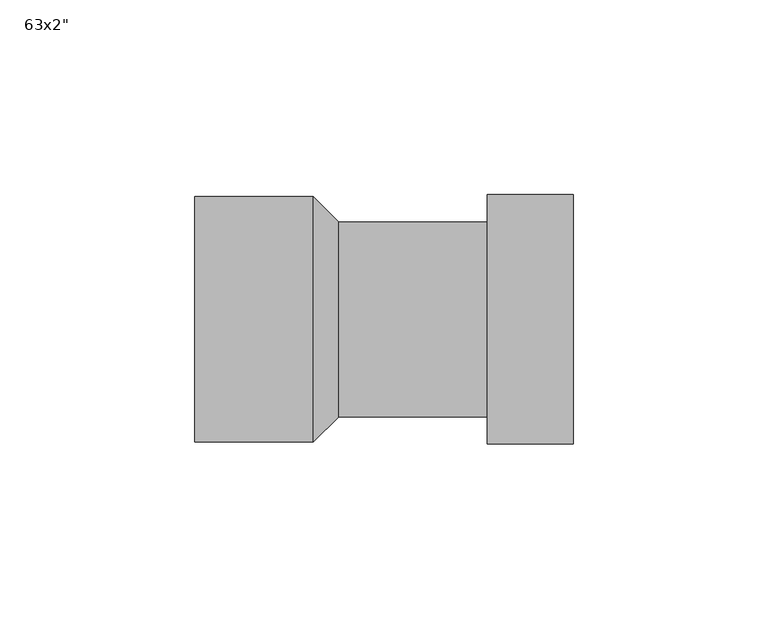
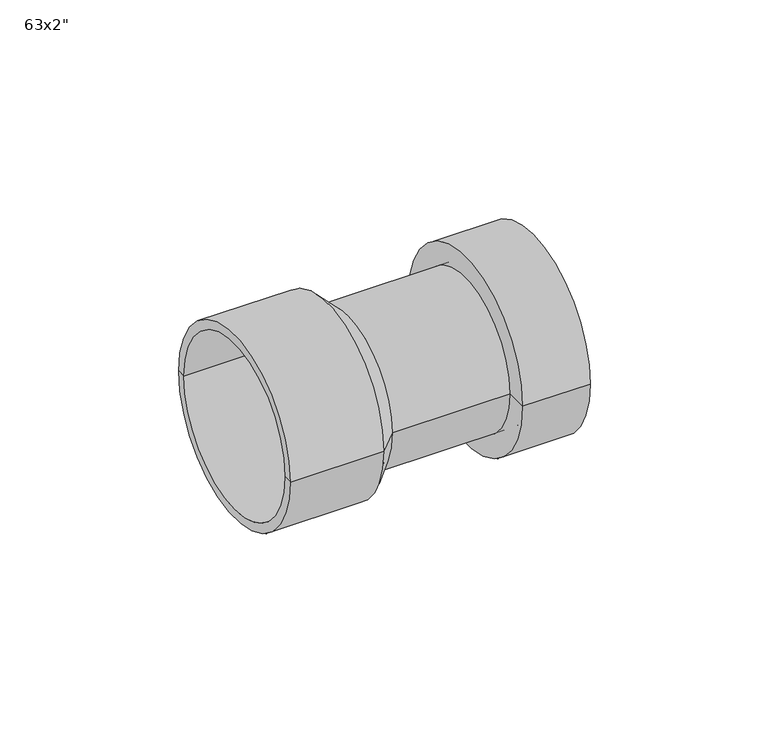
"""IFC4 building model written with IfcOpenShell, lengths in millimetres: pipe fitting geometry."""

from ifc_helpers import new_model, si_unit, frame, origin, place, context, project, spatial, polyline, circle_curve, source, transform, mapped, element, save
from ifc_brep_helpers import plane_surface, cylinder_surface, revolved_surface, advanced_brep


def pipe_fitting_8187f792(model_context):
    return source(origin(), model_context, "Body", "AdvancedBrep", [
        advanced_brep(
        [(45.0, -25.0, 0.0), (45.0, 25.0, 0.0), (45.0, 32.0, 0.0), (45.0, -32.0, 0.0), (52.0, -25.0, 0.0), (52.0, 25.0, 0.0), (52.0, -28.5, 0.0), (52.0, 28.5, 0.0), (67.0, -28.5, 0.0), (67.0, 28.5, 0.0), (67.0, -32.0, 0.0), (67.0, 32.0, 0.0)],
        [
            (0, 1, circle_curve(frame((45.0, 0.0, 0.0), z_axis=(1.0, 0.0, 0.0), x_axis=(0.0, 1.0, 0.0)), 25.0)),
            (1, 2),
            (2, 3, circle_curve(frame((45.0, 0.0, 0.0), z_axis=(-1.0, 0.0, 0.0), x_axis=(0.0, 1.0, 0.0)), 32.0)),
            (3, 0),
            (1, 0, circle_curve(frame((45.0, 0.0, 0.0), z_axis=(1.0, 0.0, 0.0), x_axis=(0.0, 1.0, 0.0)), 25.0)),
            (3, 2, circle_curve(frame((45.0, 0.0, 0.0), z_axis=(-1.0, 0.0, 0.0), x_axis=(0.0, 1.0, 0.0)), 32.0)),
            (4, 5, circle_curve(frame((52.0, 0.0, 0.0), z_axis=(1.0, 0.0, 0.0), x_axis=(0.0, 1.0, 0.0)), 25.0)),
            (5, 1),
            (0, 4),
            (5, 4, circle_curve(frame((52.0, 0.0, 0.0), z_axis=(1.0, 0.0, 0.0), x_axis=(0.0, 1.0, 0.0)), 25.0)),
            (6, 7, circle_curve(frame((52.0, 0.0, 0.0), z_axis=(1.0, 0.0, 0.0), x_axis=(0.0, 1.0, 0.0)), 28.5)),
            (7, 5),
            (4, 6),
            (7, 6, circle_curve(frame((52.0, 0.0, 0.0), z_axis=(1.0, 0.0, 0.0), x_axis=(0.0, 1.0, 0.0)), 28.5)),
            (8, 9, circle_curve(frame((67.0, 0.0, 0.0), z_axis=(1.0, 0.0, 0.0), x_axis=(0.0, 1.0, 0.0)), 28.5)),
            (9, 7),
            (6, 8),
            (9, 8, circle_curve(frame((67.0, 0.0, 0.0), z_axis=(1.0, 0.0, 0.0), x_axis=(0.0, 1.0, 0.0)), 28.5)),
            (10, 11, circle_curve(frame((67.0, 0.0, 0.0), z_axis=(1.0, 0.0, 0.0), x_axis=(0.0, 1.0, 0.0)), 32.0)),
            (11, 9),
            (8, 10),
            (11, 10, circle_curve(frame((67.0, 0.0, 0.0), z_axis=(1.0, 0.0, 0.0), x_axis=(0.0, 1.0, 0.0)), 32.0)),
            (2, 11),
            (10, 3),
        ],
        [
            plane_surface(frame((45.0, 0.0, 0.0), z_axis=(-1.0, 0.0, 0.0), x_axis=(0.0, 1.0, 0.0))),
            revolved_surface(polyline([(45.0, 25.0, 0.0), (52.0, 25.0, 0.0)]), (2024.2018969, 0.0, 0.0), (-1.0, 0.0, 0.0)),
            plane_surface(frame((52.0, 0.0, 0.0), z_axis=(1.0, 0.0, 0.0), x_axis=(0.0, 1.0, 0.0))),
            revolved_surface(polyline([(52.0, 28.5, 0.0), (67.0, 28.5, 0.0)]), (2024.2018969, 0.0, 0.0), (-1.0, 0.0, 0.0)),
            plane_surface(frame((67.0, 0.0, 0.0), z_axis=(1.0, 0.0, 0.0), x_axis=(0.0, 1.0, 0.0))),
            cylinder_surface(frame((2024.2018969, 0.0, 0.0), z_axis=(-1.0, 0.0, 0.0), x_axis=(0.0, 1.0, 0.0)), 32.0),
        ],
        [
            (0, [[1, 2, 3, 4]]),
            (0, [[5, -4, 6, -2]]),
            (1, [[7, 8, -1, 9]]),
            (1, [[10, -9, -5, -8]]),
            (2, [[11, 12, -7, 13]]),
            (2, [[14, -13, -10, -12]]),
            (3, [[15, 16, -11, 17]]),
            (3, [[18, -17, -14, -16]]),
            (4, [[19, 20, -15, 21]]),
            (4, [[22, -21, -18, -20]]),
            (5, [[-3, 23, -19, 24]]),
            (5, [[-6, -24, -22, -23]]),
        ],
    ),
        advanced_brep(
        [(-0.8622978, -28.5, 0.0), (-0.8622978, 28.5, 0.0), (-30.0, 28.5, 0.0), (-30.0, -28.5, 0.0), (5.6377022, -22.0, 0.0), (5.6377022, 22.0, 0.0), (52.0, -22.0, 0.0), (52.0, 22.0, 0.0), (52.0, -25.0, 0.0), (52.0, 25.0, 0.0), (6.8803429, -25.0, 0.0), (6.8803429, 25.0, 0.0), (0.3803429, -31.5, 0.0), (0.3803429, 31.5, 0.0), (-30.0, -31.5, 0.0), (-30.0, 31.5, 0.0)],
        [
            (0, 1, circle_curve(frame((-0.8622978, 0.0, 0.0), z_axis=(1.0, 0.0, 0.0), x_axis=(0.0, 1.0, 0.0)), 28.5)),
            (1, 2),
            (2, 3, circle_curve(frame((-30.0, 0.0, 0.0), z_axis=(-1.0, 0.0, 0.0), x_axis=(0.0, 1.0, 0.0)), 28.5)),
            (3, 0),
            (1, 0, circle_curve(frame((-0.8622978, 0.0, 0.0), z_axis=(1.0, 0.0, 0.0), x_axis=(0.0, 1.0, 0.0)), 28.5)),
            (3, 2, circle_curve(frame((-30.0, 0.0, 0.0), z_axis=(-1.0, 0.0, 0.0), x_axis=(0.0, 1.0, 0.0)), 28.5)),
            (4, 5, circle_curve(frame((5.6377022, 0.0, 0.0), z_axis=(1.0, 0.0, 0.0), x_axis=(0.0, 1.0, 0.0)), 22.0)),
            (5, 1),
            (0, 4),
            (5, 4, circle_curve(frame((5.6377022, 0.0, 0.0), z_axis=(1.0, 0.0, 0.0), x_axis=(0.0, 1.0, 0.0)), 22.0)),
            (6, 7, circle_curve(frame((52.0, 0.0, 0.0), z_axis=(1.0, 0.0, 0.0), x_axis=(0.0, 1.0, 0.0)), 22.0)),
            (7, 5),
            (4, 6),
            (7, 6, circle_curve(frame((52.0, 0.0, 0.0), z_axis=(1.0, 0.0, 0.0), x_axis=(0.0, 1.0, 0.0)), 22.0)),
            (8, 9, circle_curve(frame((52.0, 0.0, 0.0), z_axis=(1.0, 0.0, 0.0), x_axis=(0.0, 1.0, 0.0)), 25.0)),
            (9, 7),
            (6, 8),
            (9, 8, circle_curve(frame((52.0, 0.0, 0.0), z_axis=(1.0, 0.0, 0.0), x_axis=(0.0, 1.0, 0.0)), 25.0)),
            (10, 11, circle_curve(frame((6.8803429, 0.0, 0.0), z_axis=(1.0, 0.0, 0.0), x_axis=(0.0, 1.0, 0.0)), 25.0)),
            (11, 9),
            (8, 10),
            (11, 10, circle_curve(frame((6.8803429, 0.0, 0.0), z_axis=(1.0, 0.0, 0.0), x_axis=(0.0, 1.0, 0.0)), 25.0)),
            (12, 13, circle_curve(frame((0.3803429, 0.0, 0.0), z_axis=(1.0, 0.0, 0.0), x_axis=(0.0, 1.0, 0.0)), 31.5)),
            (13, 11),
            (10, 12),
            (13, 12, circle_curve(frame((0.3803429, 0.0, 0.0), z_axis=(1.0, 0.0, 0.0), x_axis=(0.0, 1.0, 0.0)), 31.5)),
            (14, 15, circle_curve(frame((-30.0, 0.0, 0.0), z_axis=(1.0, 0.0, 0.0), x_axis=(0.0, 1.0, 0.0)), 31.5)),
            (15, 13),
            (12, 14),
            (15, 14, circle_curve(frame((-30.0, 0.0, 0.0), z_axis=(1.0, 0.0, 0.0), x_axis=(0.0, 1.0, 0.0)), 31.5)),
            (2, 15),
            (14, 3),
        ],
        [
            revolved_surface(polyline([(-30.0, 28.5, 0.0), (-0.8622978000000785, 28.5, 0.0)]), (2000.0, 0.0, 0.0), (-1.0, 0.0, 0.0)),
            revolved_surface(polyline([(-0.8622978, 28.5, 0.0), (5.6377022, 22.0, 0.0)]), (2000.0, 0.0, 0.0), (-1.0, 0.0, 0.0)),
            revolved_surface(polyline([(5.6377021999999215, 22.0, 0.0), (52.0, 22.0, 0.0)]), (2000.0, 0.0, 0.0), (-1.0, 0.0, 0.0)),
            plane_surface(frame((52.0, 0.0, 0.0), z_axis=(1.0, 0.0, 0.0), x_axis=(0.0, 1.0, 0.0))),
            cylinder_surface(frame((2000.0, 0.0, 0.0), z_axis=(-1.0, 0.0, 0.0), x_axis=(0.0, 1.0, 0.0)), 25.0),
            revolved_surface(polyline([(6.8803429, 25.0, 0.0), (0.3803429, 31.5, 0.0)]), (2000.0, 0.0, 0.0), (-1.0, 0.0, 0.0)),
            cylinder_surface(frame((2000.0, 0.0, 0.0), z_axis=(-1.0, 0.0, 0.0), x_axis=(0.0, 1.0, 0.0)), 31.5),
            plane_surface(frame((-30.0, 0.0, 0.0), z_axis=(-1.0, 0.0, 0.0), x_axis=(0.0, 1.0, 0.0))),
        ],
        [
            (0, [[1, 2, 3, 4]]),
            (0, [[5, -4, 6, -2]]),
            (1, [[7, 8, -1, 9]]),
            (1, [[10, -9, -5, -8]]),
            (2, [[11, 12, -7, 13]]),
            (2, [[14, -13, -10, -12]]),
            (3, [[15, 16, -11, 17]]),
            (3, [[18, -17, -14, -16]]),
            (4, [[19, 20, -15, 21]]),
            (4, [[22, -21, -18, -20]]),
            (5, [[23, 24, -19, 25]]),
            (5, [[26, -25, -22, -24]]),
            (6, [[27, 28, -23, 29]]),
            (6, [[30, -29, -26, -28]]),
            (7, [[-3, 31, -27, 32]]),
            (7, [[-6, -32, -30, -31]]),
        ],
    ),
    ])


if __name__ == "__main__":
    model = new_model("IFC4")
    model_context = context("Model", 3, world=origin())
    ifc_project = project(units=[si_unit("LENGTHUNIT", "METRE", prefix="MILLI")], contexts=[model_context])
    site = spatial("IfcSite", under=ifc_project)
    building = spatial("IfcBuilding", under=site)
    placement = place(None, origin())
    pipe_fitting_shape = pipe_fitting_8187f792(model_context)
    element("IfcPipeFitting", 1, ObjectType="Wavin_PipeFitting_PeBrassNutAdapter : 63x2\"", at=placement, inside=building, context=model_context, shape_type="MappedRepresentation", body=[
        mapped(pipe_fitting_shape, transform((0.0, 0.0, 0.0), x_axis=(1.0, 0.0, 0.0), y_axis=(0.0, 1.0, 0.0), z_axis=(0.0, 0.0, 1.0))),
    ])
    save(model, "model.ifc")
